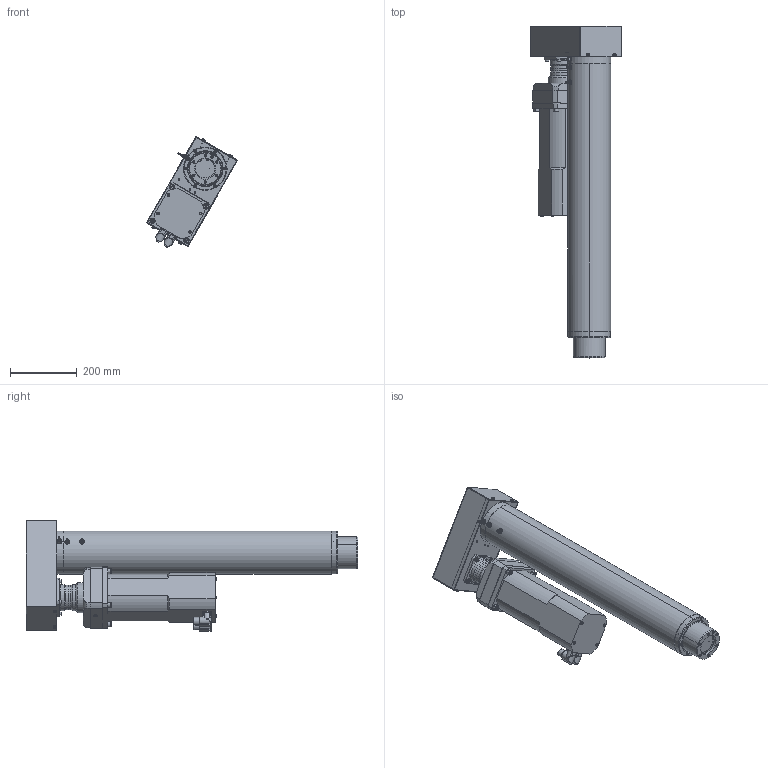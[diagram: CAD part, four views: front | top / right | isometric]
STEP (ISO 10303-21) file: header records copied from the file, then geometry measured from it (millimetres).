
FILE_DESCRIPTION (( 'STEP AP214' ), '1' );
FILE_NAME ('RLWPK030D-055-025HG0.STEP', '2023-04-05T14:21:29', ( '' ), ( '' ), 'SwSTEP 2.0', 'SolidWorks 2021', '' );
FILE_SCHEMA (( 'AUTOMOTIVE_DESIGN' ));
Length unit declared in the file: millimetre
Products named in the file (1): RLWPK030D-055-025HG0
Bounding box: 272.28 x 992.5 x 331.26 mm (x, y, z)
Volume: 15051512.8 mm3; surface area: 1764183.5 mm2
Topology: 30 solids, 30 shells, 1173 faces, 2774 edges, 1667 vertices
Faces by surface type: cylinder 475, plane 420, cone 202, torus 68, bspline 6, sphere 2
Entity records: 47841 total; most frequent: CARTESIAN_POINT 7355, DIRECTION 6069, ORIENTED_EDGE 5300, EDGE_CURVE 2650, AXIS2_PLACEMENT_3D 2371, VERTEX_POINT 1667, EDGE_LOOP 1403, LINE 1327
